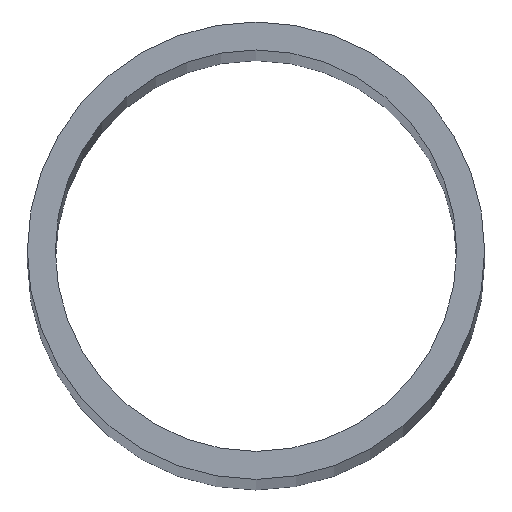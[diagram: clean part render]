
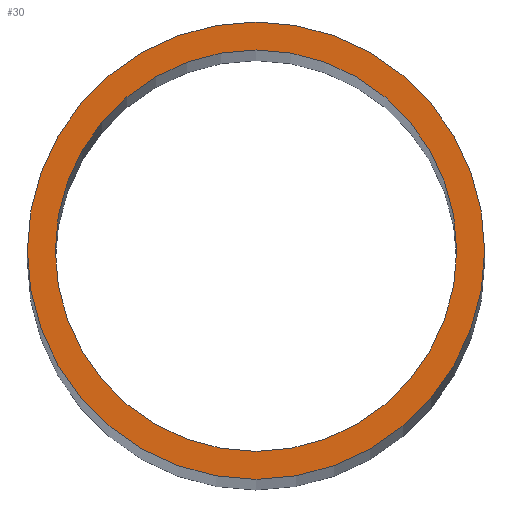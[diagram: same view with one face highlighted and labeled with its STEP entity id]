
A CAD part, top view. The second image highlights one B-rep face of the part: STEP entity #30.
In plain terms, the highlighted planar face has unit normal (0, 0, 1).
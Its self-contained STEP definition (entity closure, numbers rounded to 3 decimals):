
#4 = CIRCLE ( 'NONE', #127, 37.6 ) ;
#13 = VERTEX_POINT ( 'NONE', #53 ) ;
#15 = VERTEX_POINT ( 'NONE', #51 ) ;
#16 = VERTEX_POINT ( 'NONE', #85 ) ;
#17 = VERTEX_POINT ( 'NONE', #83 ) ;
#19 = EDGE_CURVE ( 'NONE', #16, #15, #100, .T. ) ;
#21 = EDGE_CURVE ( 'NONE', #17, #13, #117, .T. ) ;
#30 = ADVANCED_FACE ( 'NONE', ( #178, #171 ), #179, .T. ) ;
#32 = EDGE_CURVE ( 'NONE', #15, #16, #95, .T. ) ;
#33 = EDGE_CURVE ( 'NONE', #13, #17, #4, .T. ) ;
#51 = CARTESIAN_POINT ( 'NONE',  ( 33., 0., 1000. ) ) ;
#53 = CARTESIAN_POINT ( 'NONE',  ( -37.6, 0., 1000. ) ) ;
#67 = ORIENTED_EDGE ( 'NONE', *, *, #32, .F. ) ;
#72 = ORIENTED_EDGE ( 'NONE', *, *, #21, .T. ) ;
#74 = ORIENTED_EDGE ( 'NONE', *, *, #19, .F. ) ;
#76 = EDGE_LOOP ( 'NONE', ( #81, #72 ) ) ;
#81 = ORIENTED_EDGE ( 'NONE', *, *, #33, .T. ) ;
#82 = EDGE_LOOP ( 'NONE', ( #74, #67 ) ) ;
#83 = CARTESIAN_POINT ( 'NONE',  ( 37.6, 0., 1000. ) ) ;
#85 = CARTESIAN_POINT ( 'NONE',  ( -33., 0., 1000. ) ) ;
#95 = CIRCLE ( 'NONE', #96, 33. ) ;
#96 = AXIS2_PLACEMENT_3D ( 'NONE', #187, #188, #189 ) ;
#97 = AXIS2_PLACEMENT_3D ( 'NONE', #128, #137, #138 ) ;
#100 = CIRCLE ( 'NONE', #97, 33. ) ;
#102 = AXIS2_PLACEMENT_3D ( 'NONE', #175, #181, #182 ) ;
#117 = CIRCLE ( 'NONE', #121, 37.6 ) ;
#121 = AXIS2_PLACEMENT_3D ( 'NONE', #143, #144, #145 ) ;
#127 = AXIS2_PLACEMENT_3D ( 'NONE', #191, #192, #193 ) ;
#128 = CARTESIAN_POINT ( 'NONE',  ( 0., 0., 1000. ) ) ;
#137 = DIRECTION ( 'NONE',  ( 0., 0., 1. ) ) ;
#138 = DIRECTION ( 'NONE',  ( 1., 0., 0. ) ) ;
#143 = CARTESIAN_POINT ( 'NONE',  ( 0., 0., 1000. ) ) ;
#144 = DIRECTION ( 'NONE',  ( 0., 0., 1. ) ) ;
#145 = DIRECTION ( 'NONE',  ( 1., 0., 0. ) ) ;
#171 = FACE_BOUND ( 'NONE', #82, .T. ) ;
#175 = CARTESIAN_POINT ( 'NONE',  ( 0., 0., 1000. ) ) ;
#178 = FACE_OUTER_BOUND ( 'NONE', #76, .T. ) ;
#179 = PLANE ( 'NONE',  #102 ) ;
#181 = DIRECTION ( 'NONE',  ( 0., 0., 1. ) ) ;
#182 = DIRECTION ( 'NONE',  ( 1., 0., 0. ) ) ;
#187 = CARTESIAN_POINT ( 'NONE',  ( 0., 0., 1000. ) ) ;
#188 = DIRECTION ( 'NONE',  ( 0., 0., 1. ) ) ;
#189 = DIRECTION ( 'NONE',  ( 1., 0., 0. ) ) ;
#191 = CARTESIAN_POINT ( 'NONE',  ( 0., 0., 1000. ) ) ;
#192 = DIRECTION ( 'NONE',  ( 0., 0., 1. ) ) ;
#193 = DIRECTION ( 'NONE',  ( 1., 0., 0. ) ) ;
